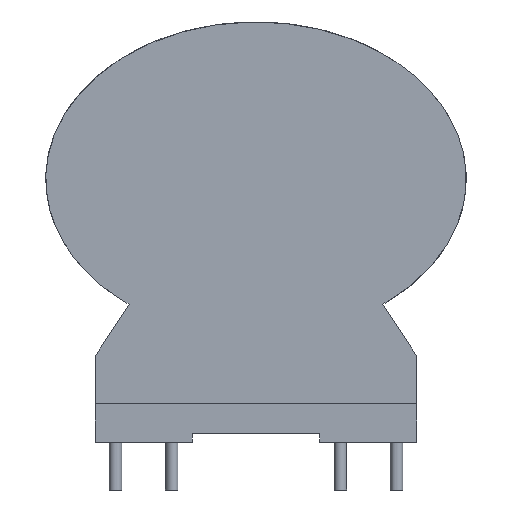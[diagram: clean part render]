
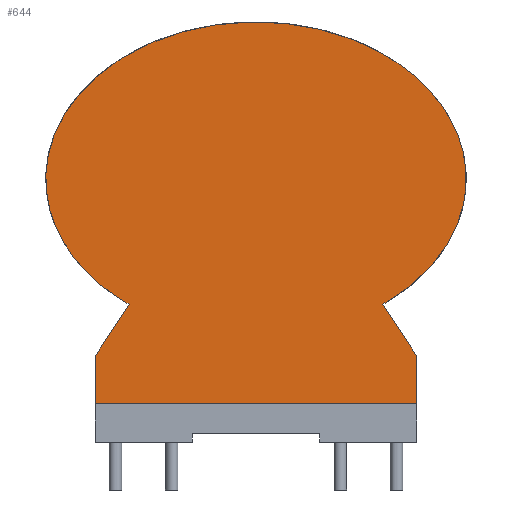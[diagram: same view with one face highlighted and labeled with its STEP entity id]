
A CAD part, front view. The second image highlights one B-rep face of the part: STEP entity #644.
In plain terms, the highlighted planar face has unit normal (0, -1, 0).
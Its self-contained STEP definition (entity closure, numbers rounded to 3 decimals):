
#48=ELLIPSE('',#705,19.,14.2);
#51=FACE_OUTER_BOUND('',#91,.T.);
#91=EDGE_LOOP('',(#436,#437,#438,#439,#440,#441));
#140=LINE('',#956,#212);
#142=LINE('',#960,#214);
#143=LINE('',#962,#215);
#144=LINE('',#966,#216);
#145=LINE('',#967,#217);
#212=VECTOR('',#766,10.);
#214=VECTOR('',#770,10.);
#215=VECTOR('',#771,10.);
#216=VECTOR('',#774,10.);
#217=VECTOR('',#775,10.);
#284=VERTEX_POINT('',#953);
#285=VERTEX_POINT('',#955);
#286=VERTEX_POINT('',#959);
#287=VERTEX_POINT('',#961);
#288=VERTEX_POINT('',#963);
#289=VERTEX_POINT('',#965);
#344=EDGE_CURVE('',#285,#284,#140,.T.);
#346=EDGE_CURVE('',#284,#286,#142,.T.);
#347=EDGE_CURVE('',#286,#287,#143,.T.);
#348=EDGE_CURVE('',#287,#288,#48,.T.);
#349=EDGE_CURVE('',#288,#289,#144,.T.);
#350=EDGE_CURVE('',#289,#285,#145,.T.);
#436=ORIENTED_EDGE('',*,*,#344,.T.);
#437=ORIENTED_EDGE('',*,*,#346,.T.);
#438=ORIENTED_EDGE('',*,*,#347,.T.);
#439=ORIENTED_EDGE('',*,*,#348,.T.);
#440=ORIENTED_EDGE('',*,*,#349,.T.);
#441=ORIENTED_EDGE('',*,*,#350,.T.);
#613=PLANE('',#704);
#644=ADVANCED_FACE('',(#51),#613,.T.);
#704=AXIS2_PLACEMENT_3D('',#958,#768,#769);
#705=AXIS2_PLACEMENT_3D('',#964,#772,#773);
#766=DIRECTION('',(1.,0.,0.));
#768=DIRECTION('center_axis',(0.,-1.,0.));
#769=DIRECTION('ref_axis',(0.,0.,-1.));
#770=DIRECTION('',(0.,0.,1.));
#771=DIRECTION('',(-0.549,0.,0.836));
#772=DIRECTION('center_axis',(0.,-1.,0.));
#773=DIRECTION('ref_axis',(1.,0.,0.));
#774=DIRECTION('',(-0.549,0.,-0.836));
#775=DIRECTION('',(0.,0.,-1.));
#953=CARTESIAN_POINT('',(14.55,-10.5,2.7));
#955=CARTESIAN_POINT('',(-14.55,-10.5,2.7));
#956=CARTESIAN_POINT('',(-14.55,-10.5,2.7));
#958=CARTESIAN_POINT('Origin',(0.,-10.5,16.958));
#959=CARTESIAN_POINT('',(14.55,-10.5,7.));
#960=CARTESIAN_POINT('',(14.55,-10.5,-0.8));
#961=CARTESIAN_POINT('',(11.473,-10.5,11.681));
#962=CARTESIAN_POINT('',(14.55,-10.5,7.));
#963=CARTESIAN_POINT('',(-11.473,-10.5,11.681));
#964=CARTESIAN_POINT('Origin',(0.,-10.5,23.));
#965=CARTESIAN_POINT('',(-14.55,-10.5,7.));
#966=CARTESIAN_POINT('',(-11.473,-10.5,11.681));
#967=CARTESIAN_POINT('',(-14.55,-10.5,7.));
